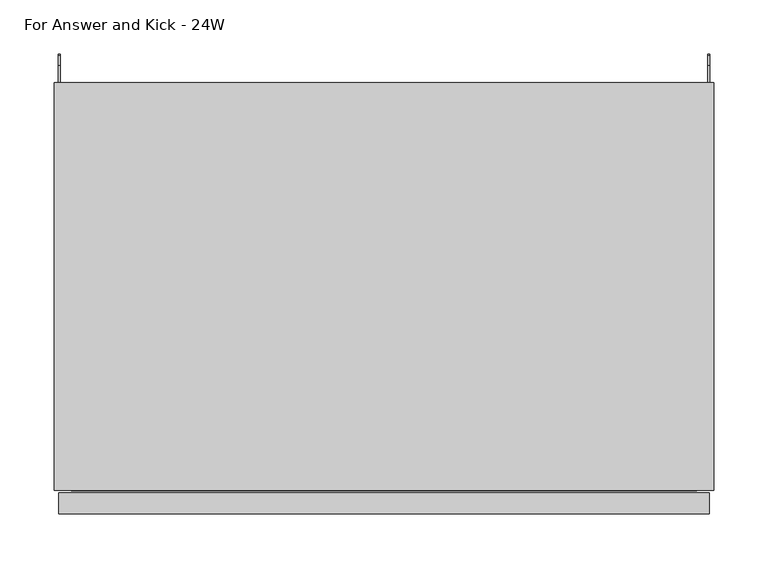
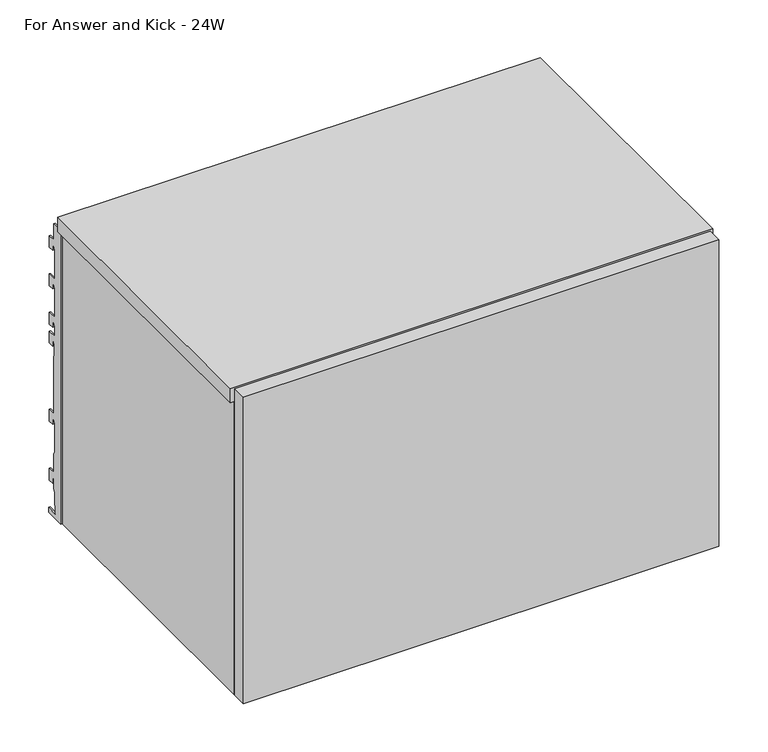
"""IFC4 building model written with IfcOpenShell, lengths in millimetres: furniture geometry, Steelcase - Universal Storage - Over the Case Bin - Flat Front : For Answer and Kick - 24W."""

from ifc_helpers import new_model, si_unit, frame, origin, place, context, project, spatial, polyline, outline, extrude, source, transform, mapped, element, save


def for_answer_and_kick_24w_ee866a86(model_context):
    return source(origin(), model_context, "Body", "SweptSolid", [
        extrude(outline(polyline([(0.0, 1657.096), (15.428165, 1657.096), (15.428165, 1635.9725192), (24.6737648, 1635.9725192), (24.6737648, 1620.2499324), (17.7141651, 1620.2499324), (17.7141651, 1627.4034202), (15.428165, 1627.4034202), (13.3707653, 1623.8398995), (13.3707653, 1584.7332049), (24.4959651, 1584.7332049), (24.4959651, 1569.0106181), (17.7141651, 1569.0106181), (17.7141651, 1576.1734076), (15.428165, 1576.1734076), (13.3707653, 1572.6099624), (13.3707653, 1533.4938907), (24.6737648, 1533.4938907), (24.6737648, 1517.7713038), (17.5768, 1517.7713038), (17.5768, 1524.9340934), (15.4248855, 1524.9340934), (13.3349998, 1521.3219111), (13.3349998, 1508.4166423), (24.6737648, 1508.4166423), (24.6737648, 1492.6940555), (17.5768, 1492.6940555), (17.5768, 1499.856845), (15.4205129, 1499.856845), (13.3933344, 1496.3530466), (13.3933344, 1483.6530466), (15.428165, 1479.2893385), (15.428165, 1403.8551467), (24.6737648, 1403.8551467), (24.6737648, 1388.1325599), (17.7141651, 1388.1325599), (17.7141651, 1395.2982562), (15.428165, 1395.2982562), (13.3306079, 1391.6651808), (13.3306079, 1353.5651808), (15.428165, 1349.9321054), (15.428165, 1325.1000701), (24.6737648, 1325.1000701), (24.6737648, 1309.3774833), (17.7141651, 1309.3774833), (17.7141651, 1316.5328605), (15.428165, 1316.5328605), (15.428165, 1303.5355433), (13.2046809, 1299.684356), (13.2046809, 1282.9679719), (11.2879653, 1282.9679719), (11.2879653, 1271.9303504), (26.4009645, 1271.9303504), (26.4009645, 1265.428), (0.0, 1265.428), (0.0, 1657.096)])), frame((604.0882, 0.0, 0.0), z_axis=(1.0, 0.0, 0.0), x_axis=(0.0, 1.0, 0.0)), (0.0, 0.0, 1.0), 1.905),
        extrude(outline(polyline([(0.0, 1657.096), (15.428165, 1657.096), (15.428165, 1635.9725192), (24.6737648, 1635.9725192), (24.6737648, 1620.2499324), (17.7141651, 1620.2499324), (17.7141651, 1627.4034202), (15.428165, 1627.4034202), (13.3707653, 1623.8398995), (13.3707653, 1584.7332049), (24.4959651, 1584.7332049), (24.4959651, 1569.0106181), (17.7141651, 1569.0106181), (17.7141651, 1576.1734076), (15.428165, 1576.1734076), (13.3707653, 1572.6099624), (13.3707653, 1533.4938907), (24.6737648, 1533.4938907), (24.6737648, 1517.7713038), (17.5768, 1517.7713038), (17.5768, 1524.9340934), (15.4248855, 1524.9340934), (13.3349998, 1521.3219111), (13.3349998, 1508.4166423), (24.6737648, 1508.4166423), (24.6737648, 1492.6940555), (17.5768, 1492.6940555), (17.5768, 1499.856845), (15.4205129, 1499.856845), (13.3933344, 1496.3530466), (13.3933344, 1483.6530466), (15.428165, 1479.2893385), (15.428165, 1403.8551467), (24.6737648, 1403.8551467), (24.6737648, 1388.1325599), (17.7141651, 1388.1325599), (17.7141651, 1395.2982562), (15.428165, 1395.2982562), (13.3306079, 1391.6651808), (13.3306079, 1353.5651808), (15.428165, 1349.9321054), (15.428165, 1325.1000701), (24.6737648, 1325.1000701), (24.6737648, 1309.3774833), (17.7141651, 1309.3774833), (17.7141651, 1316.5328605), (15.428165, 1316.5328605), (15.428165, 1303.5355433), (13.2046809, 1299.684356), (13.2046809, 1282.9679719), (11.2879653, 1282.9679719), (11.2879653, 1271.9303504), (26.4009645, 1271.9303504), (26.4009645, 1265.428), (0.0, 1265.428), (0.0, 1657.096)])), frame((3.6068, 0.0, 0.0), z_axis=(1.0, 0.0, 0.0), x_axis=(0.0, 1.0, 0.0)), (0.0, 0.0, 1.0), 1.905),
        extrude(outline(polyline([(4.4448587, -379.476), (605.1703, -379.476), (605.1703, -398.526), (4.4448587, -398.526), (4.4448587, -379.476)])), frame((0.0, 0.0, 1266.8226746), z_axis=(0.0, 0.0, 1.0), x_axis=(1.0, 0.0, 0.0)), (0.0, 0.0, 1.0), 409.5773254),
        extrude(outline(polyline([(609.6, -377.213238), (0.0, -377.213238), (0.0, 0.0), (609.6, 0.0), (609.6, -377.213238)])), frame((0.0, 0.0, 1657.35), z_axis=(0.0, 0.0, 1.0), x_axis=(1.0, 0.0, 0.0)), (0.0, 0.0, 1.0), 19.05),
        extrude(outline(polyline([(15.875, -377.213238), (5.5118, -377.213238), (5.5118, 0.0), (15.875, 0.0), (15.875, -377.213238)])), frame((0.0, 0.0, 1265.428), z_axis=(0.0, 0.0, 1.0), x_axis=(1.0, 0.0, 0.0)), (0.0, 0.0, 1.0), 391.6679457),
        extrude(outline(polyline([(608.4568665, -377.213238), (593.725, -377.213238), (593.725, 0.0), (608.4568665, 0.0), (608.4568665, -377.213238)])), frame((0.0, 0.0, 1265.428), z_axis=(0.0, 0.0, 1.0), x_axis=(1.0, 0.0, 0.0)), (0.0, 0.0, 1.0), 391.6679457),
        extrude(outline(polyline([(-35.4584098, 1372.819257), (-27.0763996, 1372.819257), (-27.0763996, 1360.1191601), (-33.4264117, 1360.1191601), (-33.4264117, 1323.1622589), (-27.0763996, 1323.1622589), (-27.0763996, 1265.428), (-35.4584098, 1265.428), (-35.4584098, 1293.054213), (-46.1263996, 1293.054213), (-46.1263996, 1268.1875622), (-59.9694137, 1268.1875622), (-59.9694137, 1294.8575912), (-332.8542818, 1294.8575912), (-332.8542818, 1268.1875622), (-377.3042823, 1268.1875622), (-377.3042823, 1310.7072052), (-35.4584098, 1310.7072052), (-35.4584098, 1372.819257)])), frame((15.875, 0.0, 0.0), z_axis=(1.0, 0.0, 0.0), x_axis=(0.0, 1.0, 0.0)), (0.0, 0.0, 1.0), 577.85),
    ])


if __name__ == "__main__":
    model = new_model("IFC4")
    model_context = context("Model", 3, world=origin())
    ifc_project = project(units=[si_unit("LENGTHUNIT", "METRE", prefix="MILLI")], contexts=[model_context])
    site = spatial("IfcSite", under=ifc_project)
    building = spatial("IfcBuilding", under=site)
    placement = place(None, origin())
    for_answer_and_kick_24w_shape = for_answer_and_kick_24w_ee866a86(model_context)
    element("IfcFurniture", 1, ObjectType="Steelcase - Universal Storage - Over the Case Bin - Flat Front : For Answer and Kick - 24W", at=placement, inside=building, context=model_context, shape_type="MappedRepresentation", body=[
        mapped(for_answer_and_kick_24w_shape, transform((0.0, 0.0, 0.0), x_axis=(1.0, 0.0, 0.0), y_axis=(0.0, 1.0, 0.0), z_axis=(0.0, 0.0, 1.0))),
    ])
    save(model, "model.ifc")
